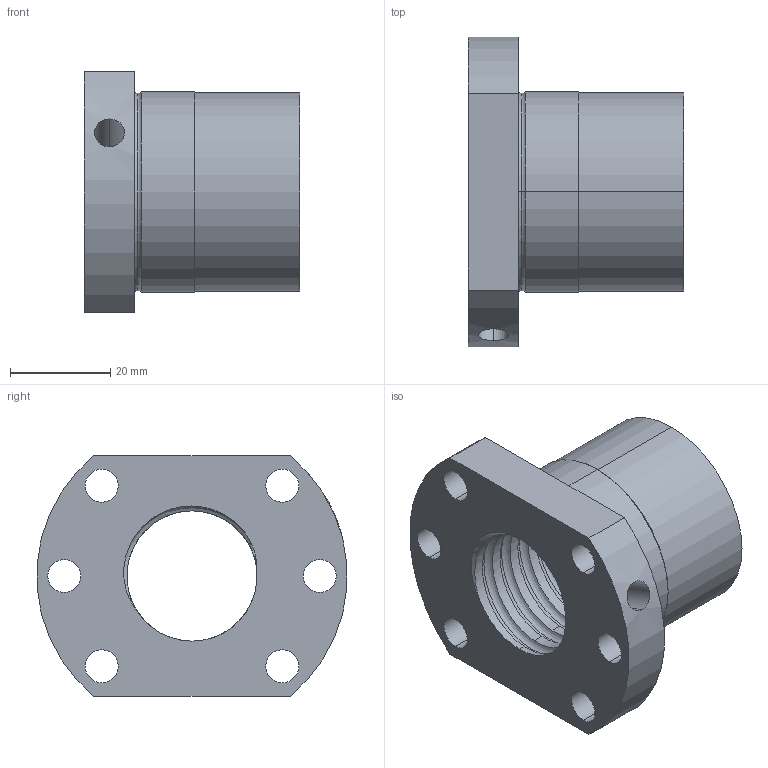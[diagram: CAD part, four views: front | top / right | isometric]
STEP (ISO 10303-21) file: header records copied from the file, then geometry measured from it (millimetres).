
FILE_DESCRIPTION (( 'STEP AP214' ), '1' );
FILE_NAME ('LLE2505-F.STEP', '2020-12-17T06:35:24', ( 'user' ), ( 'datathink' ), 'SwSTEP 2.0', 'SolidWorks 2013', '' );
FILE_SCHEMA (( 'AUTOMOTIVE_DESIGN' ));
Length unit declared in the file: millimetre
Products named in the file (1): LLE2505-F
Bounding box: 43 x 61.8 x 48 mm (x, y, z)
Volume: 40552.4 mm3; surface area: 15578.8 mm2
Topology: 1 solids, 1 shells, 55 faces, 151 edges, 99 vertices
Faces by surface type: cylinder 40, plane 7, torus 4, bspline 4
Entity records: 6332 total; most frequent: CARTESIAN_POINT 4990, ORIENTED_EDGE 302, DIRECTION 247, EDGE_CURVE 151, AXIS2_PLACEMENT_3D 101, VERTEX_POINT 99, EDGE_LOOP 72, ADVANCED_FACE 55
